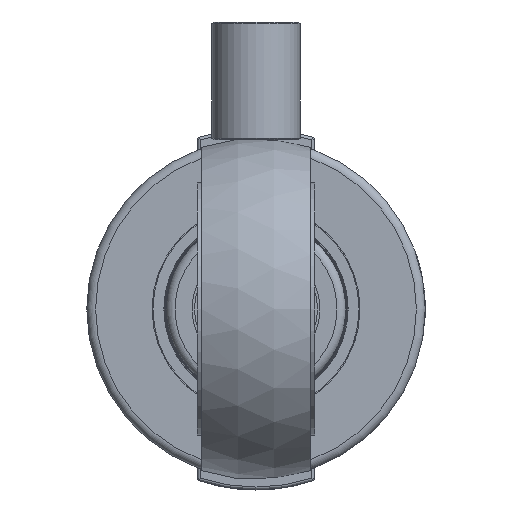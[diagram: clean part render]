
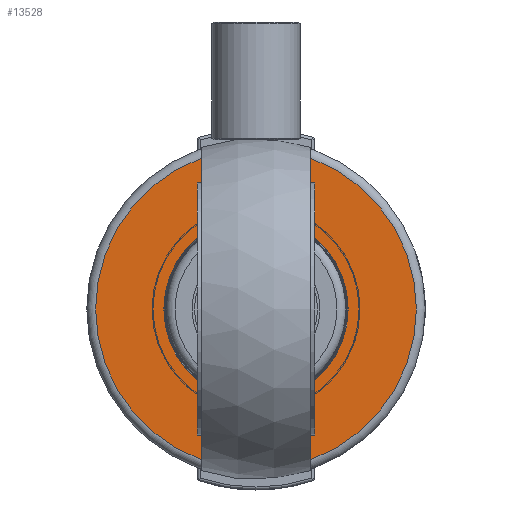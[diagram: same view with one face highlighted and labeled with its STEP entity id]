
A CAD part, front view. The second image highlights one B-rep face of the part: STEP entity #13528.
In plain terms, the highlighted planar face has unit normal (0, -1, 0) as drawn and (-1, 0, 0) by its records, which use the part's own axes.
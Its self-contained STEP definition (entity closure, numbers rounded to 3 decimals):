
#1499=FACE_BOUND('',#3299,.T.);
#1722=PLANE('',#14165);
#2465=FACE_OUTER_BOUND('',#3298,.T.);
#3298=EDGE_LOOP('',(#12280));
#3299=EDGE_LOOP('',(#12281));
#5292=CIRCLE('',#14164,54.5);
#5293=CIRCLE('',#14166,31.3);
#6631=VERTEX_POINT('',#35691);
#6632=VERTEX_POINT('',#35695);
#8536=EDGE_CURVE('',#6631,#6631,#5292,.T.);
#8537=EDGE_CURVE('',#6632,#6632,#5293,.T.);
#12280=ORIENTED_EDGE('',*,*,#8536,.F.);
#12281=ORIENTED_EDGE('',*,*,#8537,.T.);
#13528=ADVANCED_FACE('',(#2465,#1499),#1722,.T.);
#14164=AXIS2_PLACEMENT_3D('',#35693,#16012,#16013);
#14165=AXIS2_PLACEMENT_3D('',#35694,#16014,#16015);
#14166=AXIS2_PLACEMENT_3D('',#35696,#16016,#16017);
#16012=DIRECTION('center_axis',(1.,0.,0.));
#16013=DIRECTION('ref_axis',(0.,-1.,0.));
#16014=DIRECTION('center_axis',(-1.,0.,0.));
#16015=DIRECTION('ref_axis',(0.,0.,1.));
#16016=DIRECTION('center_axis',(1.,0.,0.));
#16017=DIRECTION('ref_axis',(0.,0.,-1.));
#35691=CARTESIAN_POINT('',(0.,0.,54.5));
#35693=CARTESIAN_POINT('Origin',(0.,0.,0.));
#35694=CARTESIAN_POINT('Origin',(0.,57.5,0.));
#35695=CARTESIAN_POINT('',(0.,-31.3,0.));
#35696=CARTESIAN_POINT('Origin',(0.,0.,0.));
